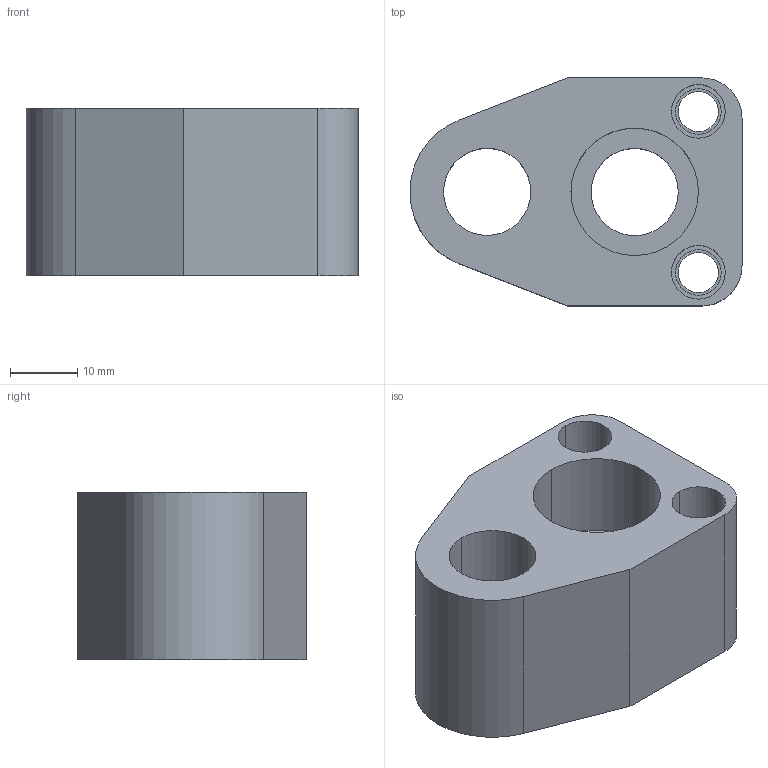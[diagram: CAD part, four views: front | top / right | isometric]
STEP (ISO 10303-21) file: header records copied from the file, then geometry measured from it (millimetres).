
FILE_DESCRIPTION(/* description */ (''),/* implementation_level */ '2;1');
FILE_NAME(/* name */ '3d_sp-asn13_05345_r00.stp',/* time_stamp */ '2011-01-10T14:10:16+09:00',/* author */ ('MISUMI'),/* organization */ (''),/* preprocessor_version */ 'ST-DEVELOPER v11',/* originating_system */ 'UGS - NX 5.0',/* authorisation */ '');
FILE_SCHEMA (('CONFIG_CONTROL_DESIGN'));
Length unit declared in the file: millimetre
Products named in the file (1): 3d_sp-asn13_05345_r00
Bounding box: 49.5 x 34 x 25 mm (x, y, z)
Volume: 24726.4 mm3; surface area: 9247.2 mm2
Topology: 1 solids, 1 shells, 38 faces, 88 edges, 58 vertices
Faces by surface type: cylinder 23, plane 13, cone 2
Entity records: 1206 total; most frequent: DIRECTION 214, CARTESIAN_POINT 185, ORIENTED_EDGE 176, EDGE_CURVE 88, AXIS2_PLACEMENT_3D 87, VERTEX_POINT 58, EDGE_LOOP 52, CIRCLE 48
